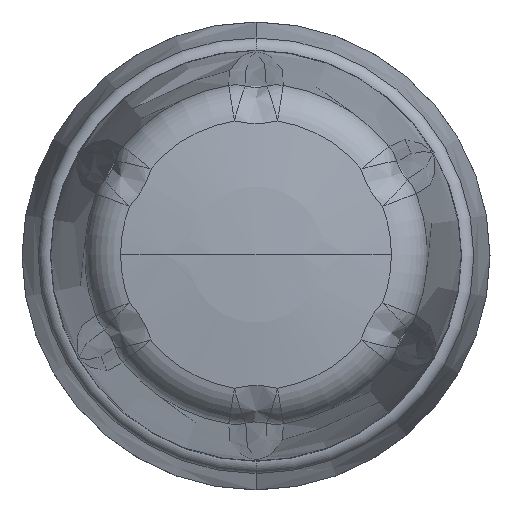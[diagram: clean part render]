
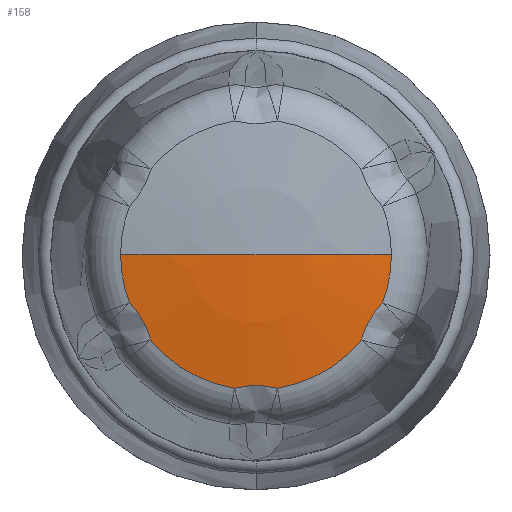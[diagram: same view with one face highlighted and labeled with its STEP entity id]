
A CAD part, top view. The second image highlights one B-rep face of the part: STEP entity #158.
In plain terms, the highlighted spherical face has radius 100 mm.
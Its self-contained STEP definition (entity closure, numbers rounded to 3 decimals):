
#60 = CARTESIAN_POINT ( 'NONE',  ( 40.428, 19.464, 95.625 ) ) ;
#158 = ADVANCED_FACE ( 'NONE', ( #2447 ), #2470, .T. ) ;
#179 = CARTESIAN_POINT ( 'NONE',  ( 39.55, 17.327, 95.545 ) ) ;
#201 = AXIS2_PLACEMENT_3D ( 'NONE', #1386, #3597, #4312 ) ;
#236 = CARTESIAN_POINT ( 'NONE',  ( 13.84, 20.027, 95.623 ) ) ;
#282 = EDGE_CURVE ( 'NONE', #4146, #1376, #3737, .T. ) ;
#308 = VERTEX_POINT ( 'NONE', #1028 ) ;
#326 = CARTESIAN_POINT ( 'NONE',  ( 40.053, 18.711, 95.611 ) ) ;
#336 = CARTESIAN_POINT ( 'NONE',  ( 15.05, 17.327, 95.545 ) ) ;
#636 = EDGE_CURVE ( 'NONE', #3830, #4146, #2406, .T. ) ;
#665 = AXIS2_PLACEMENT_3D ( 'NONE', #4647, #3929, #2395 ) ;
#673 = CARTESIAN_POINT ( 'NONE',  ( 12.538, 21.678, 95.545 ) ) ;
#846 = EDGE_CURVE ( 'NONE', #308, #3830, #4496, .T. ) ;
#907 = VERTEX_POINT ( 'NONE', #4558 ) ;
#909 = CARTESIAN_POINT ( 'NONE',  ( 26.869, 12.006, 95.623 ) ) ;
#968 = B_SPLINE_CURVE_WITH_KNOTS ( 'NONE', 3,
 ( #4171, #1224, #1268, #3118, #3878, #909, #2374, #3433, #3502, #3833 ),
 .UNSPECIFIED., .F., .F.,
 ( 4, 2, 2, 2, 4 ),
 ( 0., 0.25, 0.375, 0.5, 1. ),
 .UNSPECIFIED. ) ;
#989 = CARTESIAN_POINT ( 'NONE',  ( 13.607, 20.378, 95.616 ) ) ;
#1028 = CARTESIAN_POINT ( 'NONE',  ( 29.812, 11.705, 95.545 ) ) ;
#1031 = CARTESIAN_POINT ( 'NONE',  ( 11.504, 27.3, 95.545 ) ) ;
#1034 = ORIENTED_EDGE ( 'NONE', *, *, #4715, .T. ) ;
#1064 = CARTESIAN_POINT ( 'NONE',  ( 13.95, 19.849, 95.625 ) ) ;
#1168 = EDGE_CURVE ( 'NONE', #1754, #1555, #4121, .T. ) ;
#1198 = CARTESIAN_POINT ( 'NONE',  ( 27.3, 27.3, 95.545 ) ) ;
#1224 = CARTESIAN_POINT ( 'NONE',  ( 25.199, 11.807, 95.571 ) ) ;
#1268 = CARTESIAN_POINT ( 'NONE',  ( 25.613, 11.884, 95.591 ) ) ;
#1288 = CIRCLE ( 'NONE', #1750, 100. ) ;
#1376 = VERTEX_POINT ( 'NONE', #3497 ) ;
#1386 = CARTESIAN_POINT ( 'NONE',  ( 27.3, 27.3, 95.545 ) ) ;
#1424 = DIRECTION ( 'NONE',  ( 0., 1., 0. ) ) ;
#1555 = VERTEX_POINT ( 'NONE', #2426 ) ;
#1560 = EDGE_LOOP ( 'NONE', ( #2914, #3845, #2410, #4529, #1034, #3604, #4487, #1682 ) ) ;
#1682 = ORIENTED_EDGE ( 'NONE', *, *, #282, .T. ) ;
#1735 = DIRECTION ( 'NONE',  ( -1., 0., 0. ) ) ;
#1750 = AXIS2_PLACEMENT_3D ( 'NONE', #3660, #1424, #1735 ) ;
#1754 = VERTEX_POINT ( 'NONE', #1031 ) ;
#1796 = CARTESIAN_POINT ( 'NONE',  ( 40.141, 18.902, 95.616 ) ) ;
#1940 = CARTESIAN_POINT ( 'NONE',  ( 42.062, 21.678, 95.545 ) ) ;
#2108 = DIRECTION ( 'NONE',  ( 0., -1., 0. ) ) ;
#2131 = AXIS2_PLACEMENT_3D ( 'NONE', #4535, #3099, #2108 ) ;
#2139 = VERTEX_POINT ( 'NONE', #2300 ) ;
#2144 = CARTESIAN_POINT ( 'NONE',  ( 13.106, 21.053, 95.591 ) ) ;
#2204 = CARTESIAN_POINT ( 'NONE',  ( 39.55, 17.327, 95.545 ) ) ;
#2296 = CARTESIAN_POINT ( 'NONE',  ( 40.96, 20.387, 95.625 ) ) ;
#2300 = CARTESIAN_POINT ( 'NONE',  ( 24.788, 11.705, 95.545 ) ) ;
#2342 = CARTESIAN_POINT ( 'NONE',  ( 41.469, 21.064, 95.598 ) ) ;
#2374 = CARTESIAN_POINT ( 'NONE',  ( 27.078, 12.013, 95.625 ) ) ;
#2395 = DIRECTION ( 'NONE',  ( 1., 0., 0. ) ) ;
#2406 = B_SPLINE_CURVE_WITH_KNOTS ( 'NONE', 3,
 ( #2204, #3980, #3622, #326, #1796, #3355, #60, #2296, #2342, #1940 ),
 .UNSPECIFIED., .F., .F.,
 ( 4, 2, 2, 2, 4 ),
 ( 0., 0.25, 0.375, 0.5, 1. ),
 .UNSPECIFIED. ) ;
#2410 = ORIENTED_EDGE ( 'NONE', *, *, #3427, .T. ) ;
#2426 = CARTESIAN_POINT ( 'NONE',  ( 12.538, 21.678, 95.545 ) ) ;
#2432 = AXIS2_PLACEMENT_3D ( 'NONE', #2892, #2868, #3967 ) ;
#2443 = AXIS2_PLACEMENT_3D ( 'NONE', #1198, #3810, #2762 ) ;
#2447 = FACE_OUTER_BOUND ( 'NONE', #1560, .T. ) ;
#2470 = SPHERICAL_SURFACE ( 'NONE', #665, 100. ) ;
#2599 = CIRCLE ( 'NONE', #2443, 15.796 ) ;
#2762 = DIRECTION ( 'NONE',  ( 0., -1., 0. ) ) ;
#2868 = DIRECTION ( 'NONE',  ( 0., 0., 1. ) ) ;
#2892 = CARTESIAN_POINT ( 'NONE',  ( 27.3, 27.3, 95.545 ) ) ;
#2914 = ORIENTED_EDGE ( 'NONE', *, *, #3609, .F. ) ;
#3099 = DIRECTION ( 'NONE',  ( 0., 0., 1. ) ) ;
#3118 = CARTESIAN_POINT ( 'NONE',  ( 26.239, 11.961, 95.611 ) ) ;
#3355 = CARTESIAN_POINT ( 'NONE',  ( 40.329, 19.279, 95.623 ) ) ;
#3427 = EDGE_CURVE ( 'NONE', #1555, #907, #4066, .T. ) ;
#3433 = CARTESIAN_POINT ( 'NONE',  ( 28.143, 12.014, 95.625 ) ) ;
#3497 = CARTESIAN_POINT ( 'NONE',  ( 43.096, 27.3, 95.545 ) ) ;
#3502 = CARTESIAN_POINT ( 'NONE',  ( 28.984, 11.911, 95.598 ) ) ;
#3533 = CARTESIAN_POINT ( 'NONE',  ( 13.486, 20.549, 95.611 ) ) ;
#3597 = DIRECTION ( 'NONE',  ( 0., 0., 1. ) ) ;
#3604 = ORIENTED_EDGE ( 'NONE', *, *, #846, .T. ) ;
#3608 = CARTESIAN_POINT ( 'NONE',  ( 14.484, 18.926, 95.625 ) ) ;
#3609 = EDGE_CURVE ( 'NONE', #1754, #1376, #1288, .T. ) ;
#3614 = CARTESIAN_POINT ( 'NONE',  ( 42.062, 21.678, 95.545 ) ) ;
#3622 = CARTESIAN_POINT ( 'NONE',  ( 39.807, 18.131, 95.591 ) ) ;
#3660 = CARTESIAN_POINT ( 'NONE',  ( 27.3, 27.3, -3.2 ) ) ;
#3737 = CIRCLE ( 'NONE', #201, 15.796 ) ;
#3810 = DIRECTION ( 'NONE',  ( 0., 0., 1. ) ) ;
#3830 = VERTEX_POINT ( 'NONE', #179 ) ;
#3831 = EDGE_CURVE ( 'NONE', #907, #2139, #2599, .T. ) ;
#3833 = CARTESIAN_POINT ( 'NONE',  ( 29.812, 11.705, 95.545 ) ) ;
#3845 = ORIENTED_EDGE ( 'NONE', *, *, #1168, .T. ) ;
#3878 = CARTESIAN_POINT ( 'NONE',  ( 26.448, 11.98, 95.616 ) ) ;
#3914 = CARTESIAN_POINT ( 'NONE',  ( 14.815, 18.147, 95.598 ) ) ;
#3929 = DIRECTION ( 'NONE',  ( 0., 0., -1. ) ) ;
#3967 = DIRECTION ( 'NONE',  ( 0., -1., 0. ) ) ;
#3980 = CARTESIAN_POINT ( 'NONE',  ( 39.667, 17.734, 95.571 ) ) ;
#4066 = B_SPLINE_CURVE_WITH_KNOTS ( 'NONE', 3,
 ( #673, #4322, #2144, #3533, #989, #236, #1064, #3608, #3914, #336 ),
 .UNSPECIFIED., .F., .F.,
 ( 4, 2, 2, 2, 4 ),
 ( 0., 0.25, 0.375, 0.5, 1. ),
 .UNSPECIFIED. ) ;
#4121 = CIRCLE ( 'NONE', #2131, 15.796 ) ;
#4146 = VERTEX_POINT ( 'NONE', #3614 ) ;
#4171 = CARTESIAN_POINT ( 'NONE',  ( 24.788, 11.705, 95.545 ) ) ;
#4312 = DIRECTION ( 'NONE',  ( 0., -1., 0. ) ) ;
#4322 = CARTESIAN_POINT ( 'NONE',  ( 12.833, 21.373, 95.571 ) ) ;
#4487 = ORIENTED_EDGE ( 'NONE', *, *, #636, .T. ) ;
#4496 = CIRCLE ( 'NONE', #2432, 15.796 ) ;
#4529 = ORIENTED_EDGE ( 'NONE', *, *, #3831, .T. ) ;
#4535 = CARTESIAN_POINT ( 'NONE',  ( 27.3, 27.3, 95.545 ) ) ;
#4558 = CARTESIAN_POINT ( 'NONE',  ( 15.05, 17.327, 95.545 ) ) ;
#4647 = CARTESIAN_POINT ( 'NONE',  ( 27.3, 27.3, -3.2 ) ) ;
#4715 = EDGE_CURVE ( 'NONE', #2139, #308, #968, .T. ) ;
